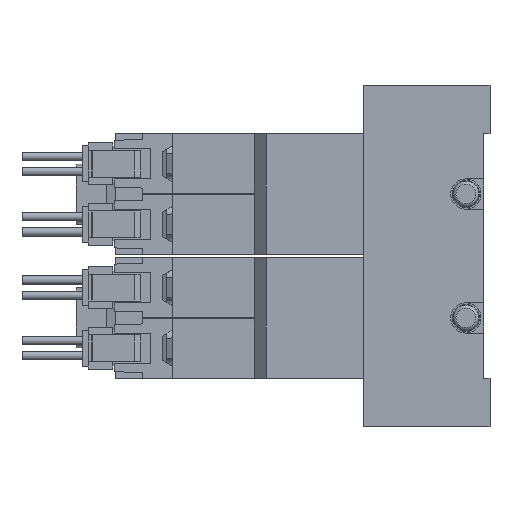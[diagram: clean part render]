
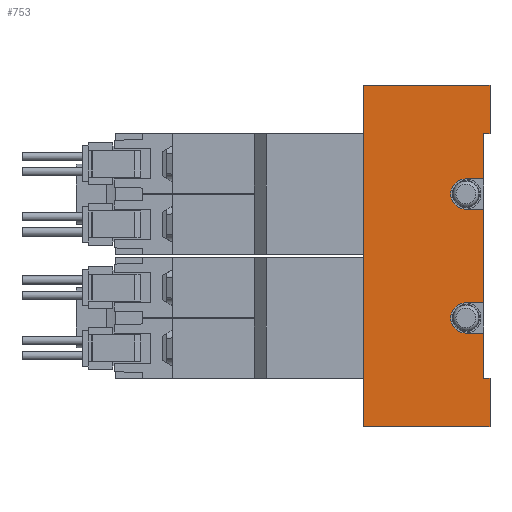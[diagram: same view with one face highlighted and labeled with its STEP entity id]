
A CAD part, left-side view. The second image highlights one B-rep face of the part: STEP entity #753.
In plain terms, the highlighted planar face has unit normal (-1, 0, 0) as drawn and (1, 0, 0) by its records, which use the part's own axes.
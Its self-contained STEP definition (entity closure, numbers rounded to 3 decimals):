
#753=ADVANCED_FACE('',(#1625),#1626,.F.);
#1625=FACE_OUTER_BOUND('',#2509,.T.);
#1626=PLANE('',#2510);
#2509=EDGE_LOOP('',(#5677,#5678,#5679,#5680,#5681,#5682,#5683,#5684,#5685,#5686,#5687,#5688,#5689,#5690,#5691,#5692));
#2510=AXIS2_PLACEMENT_3D('',#5693,#5694,#5695);
#5677=ORIENTED_EDGE('',*,*,#6632,.T.);
#5678=ORIENTED_EDGE('',*,*,#6716,.T.);
#5679=ORIENTED_EDGE('',*,*,#6687,.F.);
#5680=ORIENTED_EDGE('',*,*,#6666,.F.);
#5681=ORIENTED_EDGE('',*,*,#6649,.T.);
#5682=ORIENTED_EDGE('',*,*,#6713,.T.);
#5683=ORIENTED_EDGE('',*,*,#6702,.T.);
#5684=ORIENTED_EDGE('',*,*,#6692,.F.);
#5685=ORIENTED_EDGE('',*,*,#6712,.F.);
#5686=ORIENTED_EDGE('',*,*,#6680,.F.);
#5687=ORIENTED_EDGE('',*,*,#6700,.T.);
#5688=ORIENTED_EDGE('',*,*,#6639,.F.);
#5689=ORIENTED_EDGE('',*,*,#6705,.F.);
#5690=ORIENTED_EDGE('',*,*,#6627,.F.);
#5691=ORIENTED_EDGE('',*,*,#6698,.T.);
#5692=ORIENTED_EDGE('',*,*,#6648,.T.);
#5693=CARTESIAN_POINT('',(17.5,1.0,28.25));
#5694=DIRECTION('',(-1.0,0.0,0.0));
#5695=DIRECTION('',(0.0,0.0,1.0));
#6627=EDGE_CURVE('',#8240,#8241,#8242,.T.);
#6632=EDGE_CURVE('',#8250,#8251,#8252,.T.);
#6639=EDGE_CURVE('',#8262,#8263,#8264,.T.);
#6648=EDGE_CURVE('',#8272,#8250,#8280,.T.);
#6649=EDGE_CURVE('',#8281,#8282,#8283,.T.);
#6666=EDGE_CURVE('',#8281,#8313,#8314,.T.);
#6680=EDGE_CURVE('',#8335,#8336,#8337,.T.);
#6687=EDGE_CURVE('',#8313,#8347,#8349,.T.);
#6692=EDGE_CURVE('',#8357,#8358,#8359,.T.);
#6698=EDGE_CURVE('',#8240,#8272,#8369,.T.);
#6700=EDGE_CURVE('',#8335,#8263,#8371,.T.);
#6702=EDGE_CURVE('',#8373,#8358,#8374,.T.);
#6705=EDGE_CURVE('',#8241,#8262,#8378,.T.);
#6712=EDGE_CURVE('',#8336,#8357,#8388,.T.);
#6713=EDGE_CURVE('',#8282,#8373,#8389,.T.);
#6716=EDGE_CURVE('',#8251,#8347,#8393,.T.);
#8240=VERTEX_POINT('',#10914);
#8241=VERTEX_POINT('',#10915);
#8242=LINE('',#10916,#10917);
#8250=VERTEX_POINT('',#10929);
#8251=VERTEX_POINT('',#10930);
#8252=LINE('',#10931,#10932);
#8262=VERTEX_POINT('',#10945);
#8263=VERTEX_POINT('',#10946);
#8264=LINE('',#10947,#10948);
#8272=VERTEX_POINT('',#10960);
#8280=LINE('',#10972,#10973);
#8281=VERTEX_POINT('',#10974);
#8282=VERTEX_POINT('',#10975);
#8283=LINE('',#10976,#10977);
#8313=VERTEX_POINT('',#11019);
#8314=LINE('',#11020,#11021);
#8335=VERTEX_POINT('',#11087);
#8336=VERTEX_POINT('',#11088);
#8337=LINE('',#11089,#11090);
#8347=VERTEX_POINT('',#11104);
#8349=LINE('',#11107,#11108);
#8357=VERTEX_POINT('',#11118);
#8358=VERTEX_POINT('',#11119);
#8359=LINE('',#11120,#11121);
#8369=LINE('',#11135,#11136);
#8371=LINE('',#11139,#11140);
#8373=VERTEX_POINT('',#11143);
#8374=LINE('',#11144,#11145);
#8378=CIRCLE('',#11150,2.5);
#8388=CIRCLE('',#11161,2.5);
#8389=LINE('',#11162,#11163);
#8393=LINE('',#11169,#11170);
#10914=CARTESIAN_POINT('',(17.5,1.0,-12.75));
#10915=CARTESIAN_POINT('',(17.5,4.0,-12.75));
#10916=CARTESIAN_POINT('',(17.5,1.0,-12.75));
#10917=VECTOR('',#12292,1.0);
#10929=CARTESIAN_POINT('',(17.5,0.0,-20.25));
#10930=CARTESIAN_POINT('',(17.5,0.0,-28.25));
#10931=CARTESIAN_POINT('',(17.5,0.0,-20.25));
#10932=VECTOR('',#12297,1.0);
#10945=CARTESIAN_POINT('',(17.5,4.0,-7.75));
#10946=CARTESIAN_POINT('',(17.5,1.0,-7.75));
#10947=CARTESIAN_POINT('',(17.5,1.0,-7.75));
#10948=VECTOR('',#12307,1.0);
#10960=CARTESIAN_POINT('',(17.5,1.0,-20.25));
#10972=CARTESIAN_POINT('',(17.5,4.0,-20.25));
#10973=VECTOR('',#12316,1.0);
#10974=CARTESIAN_POINT('',(17.5,0.0,28.25));
#10975=CARTESIAN_POINT('',(17.5,0.0,20.25));
#10976=CARTESIAN_POINT('',(17.5,0.0,28.25));
#10977=VECTOR('',#12317,1.0);
#11019=CARTESIAN_POINT('',(17.5,21.0,28.25));
#11020=CARTESIAN_POINT('',(17.5,1.0,28.25));
#11021=VECTOR('',#12342,1.0);
#11087=CARTESIAN_POINT('',(17.5,1.0,7.75));
#11088=CARTESIAN_POINT('',(17.5,4.0,7.75));
#11089=CARTESIAN_POINT('',(17.5,1.0,7.75));
#11090=VECTOR('',#12374,1.0);
#11104=CARTESIAN_POINT('',(17.5,21.0,-28.25));
#11107=CARTESIAN_POINT('',(17.5,21.0,28.25));
#11108=VECTOR('',#12383,1.0);
#11118=CARTESIAN_POINT('',(17.5,4.0,12.75));
#11119=CARTESIAN_POINT('',(17.5,1.0,12.75));
#11120=CARTESIAN_POINT('',(17.5,1.0,12.75));
#11121=VECTOR('',#12392,1.0);
#11135=CARTESIAN_POINT('',(17.5,1.0,28.25));
#11136=VECTOR('',#12400,1.0);
#11139=CARTESIAN_POINT('',(17.5,1.0,28.25));
#11140=VECTOR('',#12402,1.0);
#11143=CARTESIAN_POINT('',(17.5,1.0,20.25));
#11144=CARTESIAN_POINT('',(17.5,1.0,28.25));
#11145=VECTOR('',#12404,1.0);
#11150=AXIS2_PLACEMENT_3D('',#12409,#12410,#12411);
#11161=AXIS2_PLACEMENT_3D('',#12428,#12429,#12430);
#11162=CARTESIAN_POINT('',(17.5,0.0,20.25));
#11163=VECTOR('',#12431,1.0);
#11169=CARTESIAN_POINT('',(17.5,1.0,-28.25));
#11170=VECTOR('',#12434,1.0);
#12292=DIRECTION('',(0.0,1.0,0.0));
#12297=DIRECTION('',(0.0,0.0,-1.0));
#12307=DIRECTION('',(0.0,-1.0,0.0));
#12316=DIRECTION('',(0.0,-1.0,0.0));
#12317=DIRECTION('',(0.0,0.0,-1.0));
#12342=DIRECTION('',(0.0,1.0,0.0));
#12374=DIRECTION('',(0.0,1.0,0.0));
#12383=DIRECTION('',(0.0,0.0,-1.0));
#12392=DIRECTION('',(0.0,-1.0,0.0));
#12400=DIRECTION('',(0.0,0.0,-1.0));
#12402=DIRECTION('',(0.0,0.0,-1.0));
#12404=DIRECTION('',(0.0,0.0,-1.0));
#12409=CARTESIAN_POINT('',(17.5,4.0,-10.25));
#12410=DIRECTION('',(1.0,0.0,-0.0));
#12411=DIRECTION('',(0.0,0.0,1.0));
#12428=CARTESIAN_POINT('',(17.5,4.0,10.25));
#12429=DIRECTION('',(1.0,0.0,-0.0));
#12430=DIRECTION('',(0.0,0.0,1.0));
#12431=DIRECTION('',(0.0,1.0,0.0));
#12434=DIRECTION('',(0.0,1.0,0.0));
